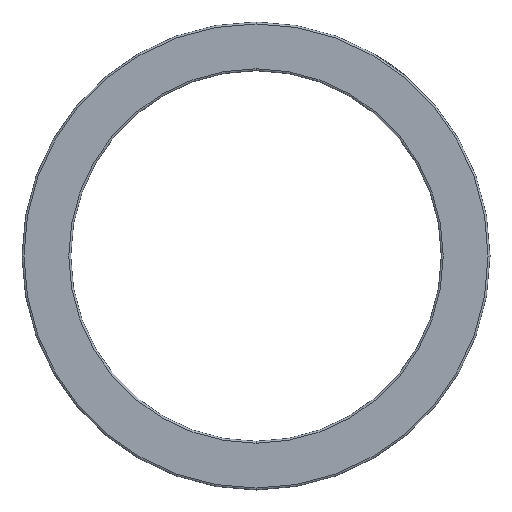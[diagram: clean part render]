
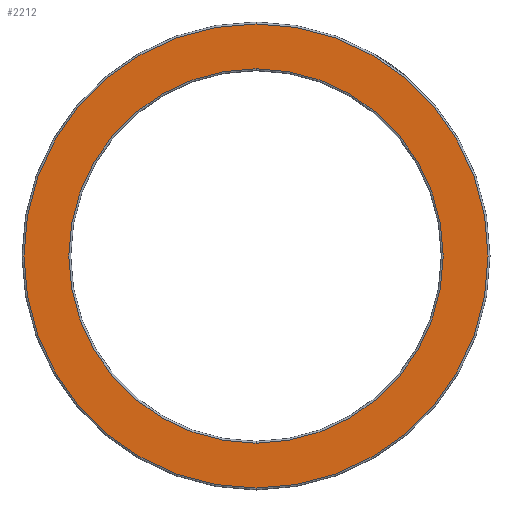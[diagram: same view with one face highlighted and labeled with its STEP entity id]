
A CAD part, front view. The second image highlights one B-rep face of the part: STEP entity #2212.
In plain terms, the highlighted planar face has unit normal (0, -1, 0).
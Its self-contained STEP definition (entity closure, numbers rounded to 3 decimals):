
#185 = VERTEX_POINT ( 'NONE', #4344 ) ;
#286 = AXIS2_PLACEMENT_3D ( 'NONE', #1735, #5142, #2228 ) ;
#485 = AXIS2_PLACEMENT_3D ( 'NONE', #2745, #6143, #3227 ) ;
#495 = EDGE_CURVE ( 'NONE', #3801, #4061, #3090, .T. ) ;
#531 = FACE_OUTER_BOUND ( 'NONE', #3108, .T. ) ;
#574 = CARTESIAN_POINT ( 'NONE',  ( 0., 0., 0. ) ) ;
#936 = EDGE_LOOP ( 'NONE', ( #3253, #1043 ) ) ;
#958 = AXIS2_PLACEMENT_3D ( 'NONE', #574, #3945, #1058 ) ;
#1041 = CIRCLE ( 'NONE', #485, 59.5 ) ;
#1043 = ORIENTED_EDGE ( 'NONE', *, *, #2953, .T. ) ;
#1058 = DIRECTION ( 'NONE',  ( 0., 0., 1. ) ) ;
#1362 = DIRECTION ( 'NONE',  ( 0., -1., 0. ) ) ;
#1498 = DIRECTION ( 'NONE',  ( 0., 0., 1. ) ) ;
#1704 = AXIS2_PLACEMENT_3D ( 'NONE', #4259, #1362, #4759 ) ;
#1735 = CARTESIAN_POINT ( 'NONE',  ( 0., 0., 0. ) ) ;
#1795 = FACE_BOUND ( 'NONE', #936, .T. ) ;
#2212 = ADVANCED_FACE ( 'NONE', ( #1795, #531 ), #2933, .F. ) ;
#2228 = DIRECTION ( 'NONE',  ( 0., 0., 1. ) ) ;
#2241 = CIRCLE ( 'NONE', #286, 48. ) ;
#2745 = CARTESIAN_POINT ( 'NONE',  ( 0., 0., 0. ) ) ;
#2852 = CARTESIAN_POINT ( 'NONE',  ( 0., 0., 0. ) ) ;
#2933 = PLANE ( 'NONE',  #3783 ) ;
#2953 = EDGE_CURVE ( 'NONE', #185, #4633, #3992, .T. ) ;
#3090 = CIRCLE ( 'NONE', #1704, 59.5 ) ;
#3108 = EDGE_LOOP ( 'NONE', ( #4805, #4942 ) ) ;
#3227 = DIRECTION ( 'NONE',  ( 0., 0., 1. ) ) ;
#3253 = ORIENTED_EDGE ( 'NONE', *, *, #4711, .T. ) ;
#3783 = AXIS2_PLACEMENT_3D ( 'NONE', #2852, #4401, #1498 ) ;
#3801 = VERTEX_POINT ( 'NONE', #5502 ) ;
#3818 = CARTESIAN_POINT ( 'NONE',  ( 0., 0., 48. ) ) ;
#3945 = DIRECTION ( 'NONE',  ( 0., 1., 0. ) ) ;
#3992 = CIRCLE ( 'NONE', #958, 48. ) ;
#4061 = VERTEX_POINT ( 'NONE', #6245 ) ;
#4259 = CARTESIAN_POINT ( 'NONE',  ( 0., 0., 0. ) ) ;
#4344 = CARTESIAN_POINT ( 'NONE',  ( 0., 0., -48. ) ) ;
#4401 = DIRECTION ( 'NONE',  ( 0., 1., 0. ) ) ;
#4633 = VERTEX_POINT ( 'NONE', #3818 ) ;
#4711 = EDGE_CURVE ( 'NONE', #4633, #185, #2241, .T. ) ;
#4759 = DIRECTION ( 'NONE',  ( 0., 0., 1. ) ) ;
#4805 = ORIENTED_EDGE ( 'NONE', *, *, #5265, .T. ) ;
#4942 = ORIENTED_EDGE ( 'NONE', *, *, #495, .T. ) ;
#5142 = DIRECTION ( 'NONE',  ( 0., 1., 0. ) ) ;
#5265 = EDGE_CURVE ( 'NONE', #4061, #3801, #1041, .T. ) ;
#5502 = CARTESIAN_POINT ( 'NONE',  ( 0., 0., -59.5 ) ) ;
#6143 = DIRECTION ( 'NONE',  ( 0., -1., 0. ) ) ;
#6245 = CARTESIAN_POINT ( 'NONE',  ( 0., 0., 59.5 ) ) ;
